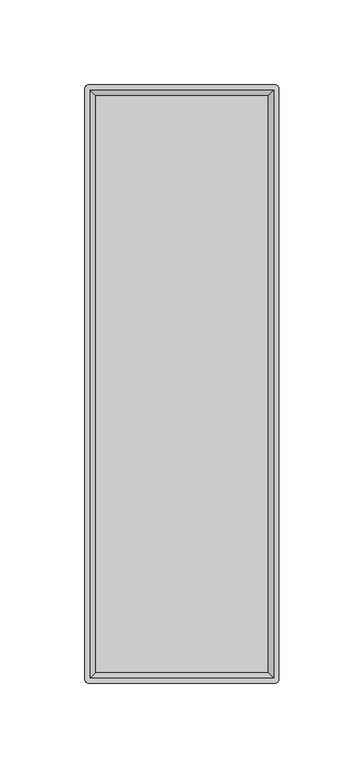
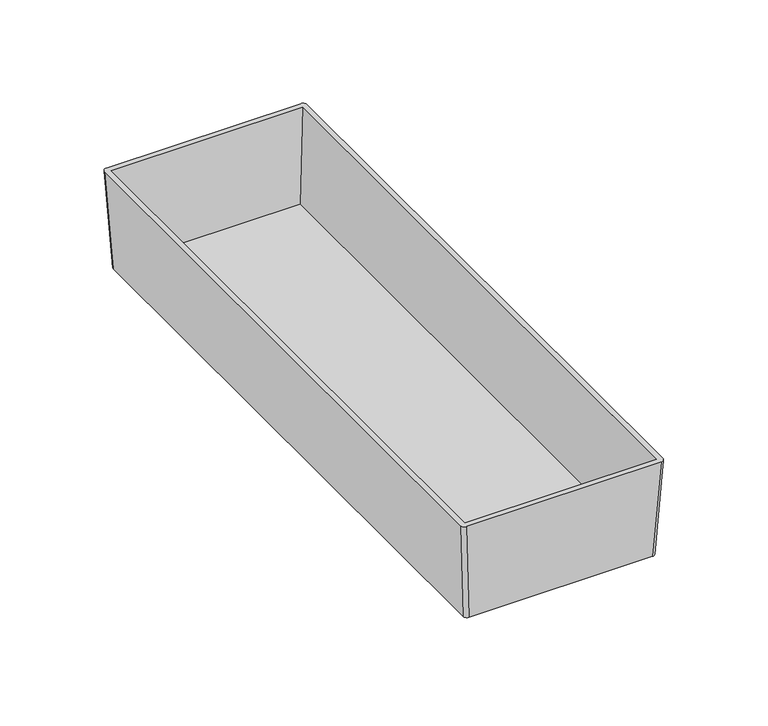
"""IFC4 building model written with IfcOpenShell, lengths in millimetres: furniture geometry."""

import ifcopenshell
import ifcopenshell.guid

model = None  # the IFC model being written
_history = None  # IfcOwnerHistory: only IFC2X3 demands one
_inside = {}  # id of a spatial element -> (the spatial element, [elements in it])
_under = {}  # id of a project, library or spatial element -> (it, [spatial elements below it])
_declared = {}  # id of a project -> (the project, [libraries it declares])
_typed = {}  # id of a type object -> (the type object, [elements of that type])
_made_of = {}  # id of a material, layer set ... -> (it, [elements and type objects made of it])


def new_model(schema):
    """Start an empty IFC model of exactly this schema.

    Asked for "IFC4X3", IfcOpenShell would pick the latest addendum, in which some entities
    have other attributes; the version numbers below select the first issue.
    IFC2X3 requires an IfcOwnerHistory on every rooted entity: one is made here for all.
    """
    global model, _history
    if schema == "IFC4X3":
        model = ifcopenshell.file(schema_version=(4, 3, 0, 0))
    else:
        model = ifcopenshell.file(schema=schema)
    _inside.clear()
    _under.clear()
    _declared.clear()
    _typed.clear()
    _made_of.clear()
    _history = None
    if model.schema == "IFC2X3":
        org = make("IfcOrganization", Name="unknown")
        user = make(
            "IfcPersonAndOrganization",
            ThePerson=make("IfcPerson", FamilyName="unknown"),
            TheOrganization=org,
        )
        app = make(
            "IfcApplication",
            ApplicationDeveloper=org,
            Version="unknown",
            ApplicationFullName="unknown",
            ApplicationIdentifier="unknown",
        )
        _history = make(
            "IfcOwnerHistory",
            OwningUser=user,
            OwningApplication=app,
            ChangeAction="ADDED",
            CreationDate=0,
        )
    return model


def make(cls, **values):
    """One entity of the class cls with the attributes given. An attribute that is None is left unset."""
    return model.create_entity(
        cls, **{name: value for name, value in values.items() if value is not None}
    )


def rooted(cls, **values):
    """An entity with a GlobalId (a new one), such as an element, a storey or a relation."""
    return make(cls, GlobalId=ifcopenshell.guid.new(), OwnerHistory=_history, **values)


def si_unit(unit_type, name, prefix=None):
    """IfcSIUnit, for example si_unit("LENGTHUNIT", "METRE", prefix="MILLI")."""
    return make("IfcSIUnit", UnitType=unit_type, Prefix=prefix, Name=name)


def assignment(units):
    """IfcUnitAssignment: the units of a project."""
    return None if units is None else make("IfcUnitAssignment", Units=units)


def point(xyz):
    """IfcCartesianPoint."""
    return None if xyz is None else make("IfcCartesianPoint", Coordinates=xyz)


def direction(xyz):
    """IfcDirection."""
    return None if xyz is None else make("IfcDirection", DirectionRatios=xyz)


def frame(location, z_axis=None, x_axis=None):
    """IfcAxis2Placement3D, a coordinate frame: its origin and axes. An axis left out is left unset."""
    return make(
        "IfcAxis2Placement3D",
        Location=point(location),
        Axis=direction(z_axis),
        RefDirection=direction(x_axis),
    )


def origin():
    """The frame at (0, 0, 0) with its axes left unset."""
    return frame((0.0, 0.0, 0.0))


def place(relative_to, where):
    """IfcLocalPlacement: puts the frame where relative to a parent placement (None: the world)."""
    return make(
        "IfcLocalPlacement", PlacementRelTo=relative_to, RelativePlacement=where
    )


def context(
    kind, dimensions, precision=None, world=None, true_north=None, identifier=None
):
    """IfcGeometricRepresentationContext, for example the 3D "Model" context."""
    return make(
        "IfcGeometricRepresentationContext",
        ContextIdentifier=identifier,
        ContextType=kind,
        CoordinateSpaceDimension=dimensions,
        Precision=precision,
        WorldCoordinateSystem=world,
        TrueNorth=true_north,
    )


def project(units=None, contexts=None):
    """IfcProject with its units and contexts."""
    return rooted(
        "IfcProject",
        Name="project",
        RepresentationContexts=contexts,
        UnitsInContext=assignment(units),
    )


def spatial(cls, under=None, at=None, **own):
    """A site, building, storey or space (cls), placed at a placement, below another one or the project."""
    s = rooted(cls, ObjectPlacement=at, **own)
    if under is not None:
        _under.setdefault(under.id(), (under, []))[1].append(s)
    return s


def circle_curve(where, radius):
    """IfcCircle in the frame where."""
    return make("IfcCircle", Position=where, Radius=radius)


def trimmed(basis, trim1, trim2, sense, master):
    """IfcTrimmedCurve: the piece of a basis curve between two trims."""
    return make(
        "IfcTrimmedCurve",
        BasisCurve=basis,
        Trim1=trim1,
        Trim2=trim2,
        SenseAgreement=sense,
        MasterRepresentation=master,
    )


def shape(context_of_items, identifier, shape_type, items):
    """IfcShapeRepresentation: the items that make up one representation, for example the "Body"."""
    return make(
        "IfcShapeRepresentation",
        ContextOfItems=context_of_items,
        RepresentationIdentifier=identifier,
        RepresentationType=shape_type,
        Items=items,
    )


def source(mapping_origin, context_of_items, identifier, shape_type, items):
    """IfcRepresentationMap: a shape defined once, which mapped items show again and again."""
    return make(
        "IfcRepresentationMap",
        MappingOrigin=mapping_origin,
        MappedRepresentation=shape(context_of_items, identifier, shape_type, items),
    )


def transform(
    local_origin,
    x_axis=None,
    y_axis=None,
    z_axis=None,
    scale=None,
    scale2=None,
    scale3=None,
    uniform=True,
):
    """IfcCartesianTransformationOperator3D, or its non-uniform kind. x_axis, y_axis, z_axis: its Axis1, 2, 3."""
    if uniform:
        return make(
            "IfcCartesianTransformationOperator3D",
            Axis1=direction(x_axis),
            Axis2=direction(y_axis),
            LocalOrigin=point(local_origin),
            Scale=scale,
            Axis3=direction(z_axis),
        )
    return make(
        "IfcCartesianTransformationOperator3DnonUniform",
        Axis1=direction(x_axis),
        Axis2=direction(y_axis),
        LocalOrigin=point(local_origin),
        Scale=scale,
        Axis3=direction(z_axis),
        Scale2=scale2,
        Scale3=scale3,
    )


def mapped(mapping_source, mapping_target):
    """IfcMappedItem: shows the shape of a source again, moved by a transform."""
    return make(
        "IfcMappedItem", MappingSource=mapping_source, MappingTarget=mapping_target
    )


def made_of(thing, what):
    """Note that an element or type object is made of a material, layer set ...; save() writes the relation."""
    if what is not None:
        _made_of.setdefault(what.id(), (what, []))[1].append(thing)
    return thing


def element(
    cls,
    number,
    at=None,
    inside=None,
    cuts=None,
    type_object=None,
    material=None,
    context=None,
    identifier="Body",
    shape_type=None,
    held_by="IfcProductDefinitionShape",
    body=None,
    shapes=None,
    **own,
):
    """One element of the class cls, such as IfcWall. Its Tag is "e" and its number.

    at: its placement. inside: the storey or other place that contains it. cuts: it is an
    opening in that element (IfcRelVoidsElement). A single representation is given by context,
    identifier, shape_type and body (its items); several are given by shapes. held_by: the class
    of the entity that holds the representations. save() writes the other relations.
    """
    e = rooted(cls, Tag="e%d" % number, ObjectPlacement=at, **own)
    if body is not None:
        shapes = [shape(context, identifier, shape_type, body)]
    if shapes is not None:
        e.Representation = make(held_by, Representations=shapes)
    if inside is not None:
        _inside.setdefault(inside.id(), (inside, []))[1].append(e)
    if cuts is not None:
        rooted(
            "IfcRelVoidsElement", RelatingBuildingElement=cuts, RelatedOpeningElement=e
        )
    if type_object is not None:
        _typed.setdefault(type_object.id(), (type_object, []))[1].append(e)
    return made_of(e, material)


def aggregate(whole, parts):
    """IfcRelAggregates: a whole, such as a stair, and the parts it consists of."""
    return rooted("IfcRelAggregates", RelatingObject=whole, RelatedObjects=parts)


def save(model, path):
    """Write the relations noted so far, then the file.

    IfcRelAggregates (storeys below a building ...), IfcRelContainedInSpatialStructure (elements
    in a storey), IfcRelDefinesByType, IfcRelAssociatesMaterial and IfcRelDeclares: one each for
    every whole, place, type object, material and project.
    """
    for whole, parts in _under.values():
        aggregate(whole, parts)
    for where, things in _inside.values():
        rooted(
            "IfcRelContainedInSpatialStructure",
            RelatedElements=things,
            RelatingStructure=where,
        )
    for kind, things in _typed.values():
        rooted("IfcRelDefinesByType", RelatedObjects=things, RelatingType=kind)
    for what, things in _made_of.values():
        rooted("IfcRelAssociatesMaterial", RelatedObjects=things, RelatingMaterial=what)
    for by, libraries in _declared.values():
        rooted("IfcRelDeclares", RelatingContext=by, RelatedDefinitions=libraries)
    model.write(path)


def plane_surface(at):
    """IfcPlane: the flat surface through the origin of the frame at, square to its z axis."""
    return make("IfcPlane", Position=at)


def extruded_surface(curve, direction_of_extrusion, depth):
    """IfcSurfaceOfLinearExtrusion: the curve pushed along a direction by depth."""
    return make(
        "IfcSurfaceOfLinearExtrusion",
        SweptCurve=make("IfcArbitraryOpenProfileDef", ProfileType="CURVE", Curve=curve),
        ExtrudedDirection=direction(direction_of_extrusion),
        Depth=depth,
    )


def advanced_brep(points, edges, surfaces, faces):
    """IfcAdvancedBrep: a solid bounded by faces that lie on surfaces and meet in shared edges.

    An edge is (start, end): straight between two places in points (the first is 0);
    or (start, end, curve); or (start, end, curve, False) where it runs against its curve.
    A face is (place in surfaces, loops), or (place, loops, False) where it looks against
    its surface's normal. A loop lists edges by number (the first is 1), with a minus sign
    where the edge is run from its end to its start. The first loop is the outer one.
    """
    corners = [point(p) for p in points]
    vertices = [make("IfcVertexPoint", VertexGeometry=c) for c in corners]
    made = []
    for start, end, *more in edges:
        made.append(
            make(
                "IfcEdgeCurve",
                EdgeStart=vertices[start],
                EdgeEnd=vertices[end],
                EdgeGeometry=more[0] if more else make("IfcPolyline", Points=[corners[start], corners[end]]),
                SameSense=more[1] if len(more) > 1 else True,
            )
        )
    hull = []
    for where, loops, *sense in faces:
        bounds = []
        for j, loop in enumerate(loops):
            ring = [make("IfcOrientedEdge", EdgeElement=made[abs(k) - 1], Orientation=k > 0) for k in loop]
            bounds.append(
                make(
                    "IfcFaceOuterBound" if j == 0 else "IfcFaceBound",
                    Bound=make("IfcEdgeLoop", EdgeList=ring),
                    Orientation=True,
                )
            )
        hull.append(make("IfcAdvancedFace", Bounds=bounds, FaceSurface=surfaces[where], SameSense=sense[0] if sense else True))
    return make("IfcAdvancedBrep", Outer=make("IfcClosedShell", CfsFaces=hull))


def furniture_e7193f1e(model_context):
    return source(origin(), model_context, "Body", "AdvancedBrep", [
        advanced_brep(
        [(51.7525, 173.0375, 1416.05), (53.975, 170.815, 1416.05), (53.975, -170.815, 1416.05), (51.7525, -173.0375, 1416.05), (-51.7525, -173.0375, 1416.05), (-53.975, -170.815, 1416.05), (-53.975, 170.815, 1416.05), (-51.7525, 173.0375, 1416.05), (54.9275, 176.2125, 1473.2), (-54.9275, 176.2125, 1473.2), (-57.15, 173.99, 1473.2), (-57.15, -173.99, 1473.2), (-54.9275, -176.2125, 1473.2), (54.9275, -176.2125, 1473.2), (57.15, -173.99, 1473.2), (57.15, 173.99, 1473.2), (-53.975, 173.0375, 1473.2), (53.975, 173.0375, 1473.2), (53.975, -173.0375, 1473.2), (-53.975, -173.0375, 1473.2), (50.8, 169.8625, 1418.59), (-50.8, 169.8625, 1418.59), (-50.8, -169.8625, 1418.59), (50.8, -169.8625, 1418.59)],
        [
            (0, 1, circle_curve(frame((51.7525, 170.815, 1416.05), z_axis=(0.0, 0.0, -1.0), x_axis=(-1.0, 0.0, 0.0)), 2.2225)),
            (1, 2),
            (2, 3, circle_curve(frame((51.7525, -170.815, 1416.05), z_axis=(0.0, 0.0, -1.0), x_axis=(-1.0, 0.0, 0.0)), 2.2225)),
            (3, 4),
            (4, 5, circle_curve(frame((-51.7525, -170.815, 1416.05), z_axis=(0.0, 0.0, -1.0), x_axis=(-1.0, 0.0, 0.0)), 2.2225)),
            (5, 6),
            (6, 7, circle_curve(frame((-51.7525, 170.815, 1416.05), z_axis=(0.0, 0.0, -1.0), x_axis=(-1.0, 0.0, 0.0)), 2.2225)),
            (7, 0),
            (8, 9),
            (9, 10, circle_curve(frame((-54.9275, 173.99, 1473.2), z_axis=(0.0, 0.0, 1.0), x_axis=(-1.0, 0.0, 0.0)), 2.2225)),
            (10, 11),
            (11, 12, circle_curve(frame((-54.9275, -173.99, 1473.2), z_axis=(0.0, 0.0, 1.0), x_axis=(-1.0, 0.0, 0.0)), 2.2225)),
            (12, 13),
            (13, 14, circle_curve(frame((54.9275, -173.99, 1473.2), z_axis=(0.0, 0.0, 1.0), x_axis=(-1.0, 0.0, 0.0)), 2.2225)),
            (14, 15),
            (15, 8, circle_curve(frame((54.9275, 173.99, 1473.2), z_axis=(0.0, 0.0, 1.0), x_axis=(-1.0, 0.0, 0.0)), 2.2225)),
            (16, 17),
            (17, 18),
            (18, 19),
            (19, 16),
            (7, 9),
            (8, 0),
            (6, 10),
            (5, 11),
            (4, 12),
            (3, 13),
            (2, 14),
            (1, 15),
            (20, 21),
            (21, 22),
            (22, 23),
            (23, 20),
            (20, 17),
            (16, 21),
            (19, 22),
            (18, 23),
        ],
        [
            plane_surface(frame((0.0, 0.0, 1416.05), z_axis=(0.0, 0.0, -1.0), x_axis=(-1.0, 0.0, 0.0))),
            plane_surface(frame((0.0, 0.0, 1473.2), z_axis=(0.0, 0.0, 1.0), x_axis=(-1.0, 0.0, 0.0))),
            plane_surface(frame((0.0, 176.2125, 1473.2), z_axis=(0.0, 0.9984603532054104, -0.05547001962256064), x_axis=(1.0, 0.0, 0.0))),
            extruded_surface(trimmed(circle_curve(frame((-54.9275, 173.99, 1473.2), z_axis=(0.0, 0.0, -1.0), x_axis=(-1.0, 0.0, 0.0)), 2.2225), [point((-57.15, 173.99, 1473.2))], [point((-54.9275, 176.2125, 1473.2))], True, "CARTESIAN"), (3.1750000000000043, -3.1750000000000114, -57.15000000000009), 57.32611752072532),
            plane_surface(frame((-57.15, 0.0, 1473.2), z_axis=(-0.998460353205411, 0.0, -0.05547001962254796), x_axis=(0.0, 1.0, 0.0))),
            extruded_surface(trimmed(circle_curve(frame((-54.9275, -173.99, 1473.2), z_axis=(0.0, 0.0, -1.0), x_axis=(-1.0, 0.0, 0.0)), 2.2225), [point((-54.9275, -176.2125, 1473.2))], [point((-57.15, -173.99, 1473.2))], True, "CARTESIAN"), (3.1750000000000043, 3.1750000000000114, -57.15000000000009), 57.32611752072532),
            plane_surface(frame((0.0, -176.2125, 1473.2), z_axis=(0.0, -0.9984603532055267, -0.05547001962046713), x_axis=(-1.0, 0.0, 0.0))),
            extruded_surface(trimmed(circle_curve(frame((54.9275, -173.99, 1473.2), z_axis=(0.0, 0.0, -1.0), x_axis=(-1.0, 0.0, 0.0)), 2.2225), [point((57.15, -173.99, 1473.2))], [point((54.9275, -176.2125, 1473.2))], True, "CARTESIAN"), (-3.1750000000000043, 3.1750000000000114, -57.15000000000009), 57.32611752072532),
            plane_surface(frame((57.15, 0.0, 1473.2), z_axis=(0.998460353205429, 0.0, -0.055470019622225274), x_axis=(0.0, -1.0, 0.0))),
            extruded_surface(trimmed(circle_curve(frame((54.9275, 173.99, 1473.2), z_axis=(0.0, 0.0, -1.0), x_axis=(-1.0, 0.0, 0.0)), 2.2225), [point((54.9275, 176.2125, 1473.2))], [point((57.15, 173.99, 1473.2))], True, "CARTESIAN"), (-3.1750000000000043, -3.1750000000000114, -57.15000000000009), 57.32611752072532),
            plane_surface(frame((0.0, 0.0, 1418.59), z_axis=(0.0, 0.0, 1.0), x_axis=(-1.0, 0.0, 0.0))),
            plane_surface(frame((0.0, 173.0375, 1473.2), z_axis=(0.0, -0.9983141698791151, 0.05804152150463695), x_axis=(1.0, 0.0, 0.0))),
            plane_surface(frame((-53.975, 0.0, 1473.2), z_axis=(0.9983141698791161, 0.0, 0.058041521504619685), x_axis=(0.0, 1.0, 0.0))),
            plane_surface(frame((0.0, -173.0375, 1473.2), z_axis=(0.0, 0.9983141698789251, 0.0580415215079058), x_axis=(-1.0, 0.0, 0.0))),
            plane_surface(frame((53.975, 0.0, 1473.2), z_axis=(-0.998314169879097, 0.0, 0.058041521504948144), x_axis=(0.0, -1.0, 0.0))),
        ],
        [
            (0, [[1, 2, 3, 4, 5, 6, 7, 8]]),
            (1, [[9, 10, 11, 12, 13, 14, 15, 16], [17, 18, 19, 20]]),
            (2, [[-8, 21, -9, 22]]),
            (3, [[-7, 23, -10, -21]]),
            (4, [[-6, 24, -11, -23]]),
            (5, [[-5, 25, -12, -24]]),
            (6, [[-4, 26, -13, -25]]),
            (7, [[-3, 27, -14, -26]]),
            (8, [[-2, 28, -15, -27]]),
            (9, [[-1, -22, -16, -28]]),
            (10, [[29, 30, 31, 32]]),
            (11, [[-29, 33, -17, 34]]),
            (12, [[-30, -34, -20, 35]]),
            (13, [[-31, -35, -19, 36]]),
            (14, [[-32, -36, -18, -33]]),
        ],
    ),
    ])


if __name__ == "__main__":
    model = new_model("IFC4")
    model_context = context("Model", 3, world=origin())
    ifc_project = project(units=[si_unit("LENGTHUNIT", "METRE", prefix="MILLI")], contexts=[model_context])
    site = spatial("IfcSite", under=ifc_project)
    building = spatial("IfcBuilding", under=site)
    placement = place(None, origin())
    furniture_shape = furniture_e7193f1e(model_context)
    element("IfcFurniture", 1, ObjectType="HermanMiller_CoStruc_CO231_Subcontainer : 2 1/4\"H x 13 7/8\"D x 4 1/2\"W", at=placement, inside=building, context=model_context, shape_type="MappedRepresentation", body=[
        mapped(furniture_shape, transform((0.0, 0.0, 0.0), x_axis=(1.0, 0.0, 0.0), y_axis=(0.0, 1.0, 0.0), z_axis=(0.0, 0.0, 1.0))),
    ])
    save(model, "model.ifc")
